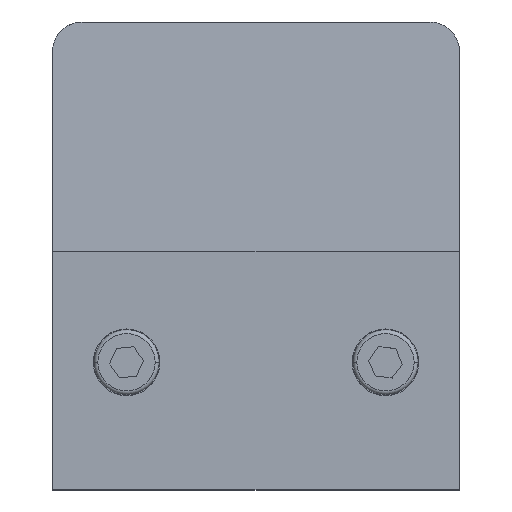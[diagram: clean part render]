
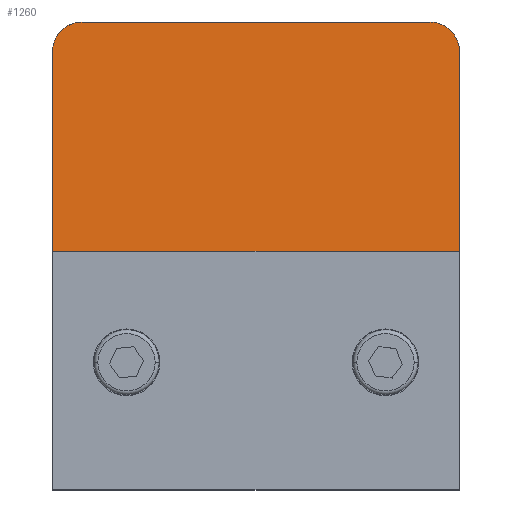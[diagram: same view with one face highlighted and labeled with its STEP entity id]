
A CAD part, top view. The second image highlights one B-rep face of the part: STEP entity #1260.
In plain terms, the highlighted planar face has unit normal (0, 0.064, 0.998).
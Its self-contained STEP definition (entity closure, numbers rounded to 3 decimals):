
#131 =( BOUNDED_CURVE ( )  B_SPLINE_CURVE ( 3, ( #2156, #333, #509, #1959 ),
 .UNSPECIFIED., .F., .T. ) 
 B_SPLINE_CURVE_WITH_KNOTS ( ( 4, 4 ),
 ( 3.142, 4.712 ),
 .UNSPECIFIED. ) 
 CURVE ( )  GEOMETRIC_REPRESENTATION_ITEM ( )  RATIONAL_B_SPLINE_CURVE ( ( 1., 0.805, 0.805, 1. ) ) 
 REPRESENTATION_ITEM ( '' )  );
#150 = EDGE_CURVE ( 'NONE', #2500, #306, #2635, .T. ) ;
#183 = CARTESIAN_POINT ( 'NONE',  ( 23.5, 37.5, 21.5 ) ) ;
#267 = ORIENTED_EDGE ( 'NONE', *, *, #827, .F. ) ;
#306 = VERTEX_POINT ( 'NONE', #1668 ) ;
#333 = CARTESIAN_POINT ( 'NONE',  ( -25.843, 37.5, 21.5 ) ) ;
#509 = CARTESIAN_POINT ( 'NONE',  ( -27.5, 35.843, 21.607 ) ) ;
#521 = LINE ( 'NONE', #1350, #1547 ) ;
#644 = DIRECTION ( 'NONE',  ( 0., -0.998, 0.064 ) ) ;
#776 = DIRECTION ( 'NONE',  ( 0., -0.998, 0.064 ) ) ;
#779 = ORIENTED_EDGE ( 'NONE', *, *, #2002, .T. ) ;
#802 = PLANE ( 'NONE',  #2379 ) ;
#821 = CARTESIAN_POINT ( 'NONE',  ( 23.5, 37.5, 21.5 ) ) ;
#827 = EDGE_CURVE ( 'NONE', #1145, #306, #521, .T. ) ;
#834 = CARTESIAN_POINT ( 'NONE',  ( 27.5, 33.5, 21.758 ) ) ;
#848 = LINE ( 'NONE', #1710, #2517 ) ;
#898 = VERTEX_POINT ( 'NONE', #821 ) ;
#900 = VECTOR ( 'NONE', #776, 1000. ) ;
#903 = LINE ( 'NONE', #2554, #2316 ) ;
#1123 = EDGE_CURVE ( 'NONE', #1649, #2500, #131, .T. ) ;
#1145 = VERTEX_POINT ( 'NONE', #1348 ) ;
#1203 = DIRECTION ( 'NONE',  ( 0., 0.998, -0.064 ) ) ;
#1204 = CARTESIAN_POINT ( 'NONE',  ( 25.843, 37.5, 21.5 ) ) ;
#1227 = FACE_OUTER_BOUND ( 'NONE', #1295, .T. ) ;
#1260 = ADVANCED_FACE ( 'NONE', ( #1227 ), #802, .F. ) ;
#1295 = EDGE_LOOP ( 'NONE', ( #779, #1766, #2120, #267, #2383, #1967 ) ) ;
#1348 = CARTESIAN_POINT ( 'NONE',  ( 27.5, 6.5, 23.5 ) ) ;
#1350 = CARTESIAN_POINT ( 'NONE',  ( 27.5, 6.5, 23.5 ) ) ;
#1369 = EDGE_CURVE ( 'NONE', #1484, #1145, #848, .T. ) ;
#1428 = CARTESIAN_POINT ( 'NONE',  ( 27.5, 37.5, 21.5 ) ) ;
#1429 = CARTESIAN_POINT ( 'NONE',  ( -27.5, 33.5, 21.758 ) ) ;
#1484 = VERTEX_POINT ( 'NONE', #834 ) ;
#1532 = DIRECTION ( 'NONE',  ( -1., 0., 0. ) ) ;
#1547 = VECTOR ( 'NONE', #1978, 1000. ) ;
#1649 = VERTEX_POINT ( 'NONE', #2127 ) ;
#1668 = CARTESIAN_POINT ( 'NONE',  ( -27.5, 6.5, 23.5 ) ) ;
#1710 = CARTESIAN_POINT ( 'NONE',  ( 27.5, 37.5, 21.5 ) ) ;
#1766 = ORIENTED_EDGE ( 'NONE', *, *, #1123, .T. ) ;
#1800 = CARTESIAN_POINT ( 'NONE',  ( -27.5, 37.5, 21.5 ) ) ;
#1959 = CARTESIAN_POINT ( 'NONE',  ( -27.5, 33.5, 21.758 ) ) ;
#1967 = ORIENTED_EDGE ( 'NONE', *, *, #2557, .T. ) ;
#1978 = DIRECTION ( 'NONE',  ( -1., 0., 0. ) ) ;
#2002 = EDGE_CURVE ( 'NONE', #898, #1649, #903, .T. ) ;
#2041 = CARTESIAN_POINT ( 'NONE',  ( 27.5, 33.5, 21.758 ) ) ;
#2120 = ORIENTED_EDGE ( 'NONE', *, *, #150, .T. ) ;
#2127 = CARTESIAN_POINT ( 'NONE',  ( -23.5, 37.5, 21.5 ) ) ;
#2156 = CARTESIAN_POINT ( 'NONE',  ( -23.5, 37.5, 21.5 ) ) ;
#2200 = DIRECTION ( 'NONE',  ( 0., -0.064, -0.998 ) ) ;
#2229 = CARTESIAN_POINT ( 'NONE',  ( 27.5, 35.843, 21.607 ) ) ;
#2233 =( BOUNDED_CURVE ( )  B_SPLINE_CURVE ( 3, ( #2041, #2229, #1204, #183 ),
 .UNSPECIFIED., .F., .F. ) 
 B_SPLINE_CURVE_WITH_KNOTS ( ( 4, 4 ),
 ( 4.712, 6.283 ),
 .UNSPECIFIED. ) 
 CURVE ( )  GEOMETRIC_REPRESENTATION_ITEM ( )  RATIONAL_B_SPLINE_CURVE ( ( 1., 0.805, 0.805, 1. ) ) 
 REPRESENTATION_ITEM ( '' )  );
#2316 = VECTOR ( 'NONE', #1532, 1000. ) ;
#2379 = AXIS2_PLACEMENT_3D ( 'NONE', #1428, #2200, #1203 ) ;
#2383 = ORIENTED_EDGE ( 'NONE', *, *, #1369, .F. ) ;
#2500 = VERTEX_POINT ( 'NONE', #1429 ) ;
#2517 = VECTOR ( 'NONE', #644, 1000. ) ;
#2554 = CARTESIAN_POINT ( 'NONE',  ( 27.5, 37.5, 21.5 ) ) ;
#2557 = EDGE_CURVE ( 'NONE', #1484, #898, #2233, .T. ) ;
#2635 = LINE ( 'NONE', #1800, #900 ) ;
